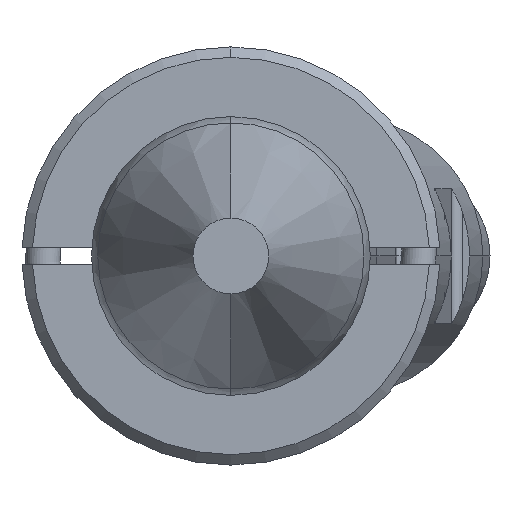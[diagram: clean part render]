
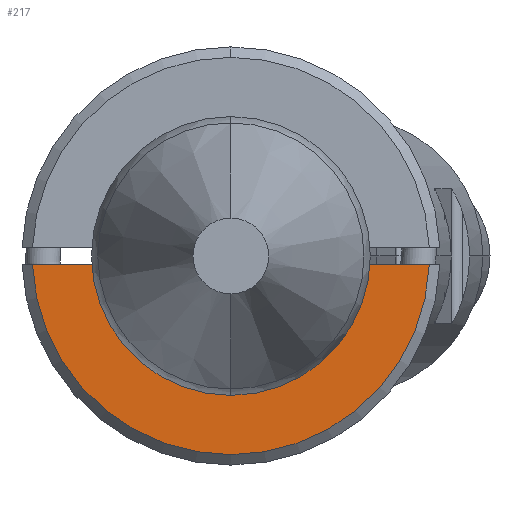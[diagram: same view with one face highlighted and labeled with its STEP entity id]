
A CAD part, front view. The second image highlights one B-rep face of the part: STEP entity #217.
In plain terms, the highlighted planar face has unit normal (0, -1, 0).
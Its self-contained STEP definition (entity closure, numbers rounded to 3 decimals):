
#7 = EDGE_CURVE ( 'NONE', #2664, #1240, #366, .T. ) ;
#134 = CARTESIAN_POINT ( 'NONE',  ( 0., -6., 0. ) ) ;
#217 = ADVANCED_FACE ( 'NONE', ( #2460 ), #591, .T. ) ;
#238 = CARTESIAN_POINT ( 'NONE',  ( 5.695, -6., -0.25 ) ) ;
#277 = CARTESIAN_POINT ( 'NONE',  ( 0., -6., -3.2 ) ) ;
#304 = AXIS2_PLACEMENT_3D ( 'NONE', #570, #2856, #1585 ) ;
#366 = CIRCLE ( 'NONE', #2802, 3.2 ) ;
#409 = CARTESIAN_POINT ( 'NONE',  ( -5.695, -6., -0.25 ) ) ;
#545 = DIRECTION ( 'NONE',  ( 1., 0., 0. ) ) ;
#570 = CARTESIAN_POINT ( 'NONE',  ( -6., -6., 0. ) ) ;
#591 = PLANE ( 'NONE',  #304 ) ;
#597 = AXIS2_PLACEMENT_3D ( 'NONE', #2712, #818, #3080 ) ;
#667 = VERTEX_POINT ( 'NONE', #2663 ) ;
#668 = DIRECTION ( 'NONE',  ( 1., 0., 0. ) ) ;
#678 = VECTOR ( 'NONE', #668, 1000. ) ;
#748 = CIRCLE ( 'NONE', #1338, 5.7 ) ;
#812 = EDGE_LOOP ( 'NONE', ( #3469, #2891, #1546, #981, #1248 ) ) ;
#818 = DIRECTION ( 'NONE',  ( 0., 1., 0. ) ) ;
#981 = ORIENTED_EDGE ( 'NONE', *, *, #2269, .T. ) ;
#1176 = CARTESIAN_POINT ( 'NONE',  ( -6., -6., -0.25 ) ) ;
#1240 = VERTEX_POINT ( 'NONE', #2181 ) ;
#1248 = ORIENTED_EDGE ( 'NONE', *, *, #7, .T. ) ;
#1338 = AXIS2_PLACEMENT_3D ( 'NONE', #2950, #2689, #3929 ) ;
#1546 = ORIENTED_EDGE ( 'NONE', *, *, #3227, .F. ) ;
#1585 = DIRECTION ( 'NONE',  ( 0., 0., -1. ) ) ;
#1715 = VERTEX_POINT ( 'NONE', #238 ) ;
#1770 = EDGE_CURVE ( 'NONE', #2132, #1240, #3700, .T. ) ;
#2117 = LINE ( 'NONE', #3405, #2675 ) ;
#2132 = VERTEX_POINT ( 'NONE', #409 ) ;
#2181 = CARTESIAN_POINT ( 'NONE',  ( -3.19, -6., -0.25 ) ) ;
#2269 = EDGE_CURVE ( 'NONE', #667, #2664, #3228, .T. ) ;
#2460 = FACE_OUTER_BOUND ( 'NONE', #812, .T. ) ;
#2663 = CARTESIAN_POINT ( 'NONE',  ( 3.19, -6., -0.25 ) ) ;
#2664 = VERTEX_POINT ( 'NONE', #277 ) ;
#2675 = VECTOR ( 'NONE', #545, 1000. ) ;
#2689 = DIRECTION ( 'NONE',  ( 0., -1., 0. ) ) ;
#2712 = CARTESIAN_POINT ( 'NONE',  ( 0., -6., 0. ) ) ;
#2802 = AXIS2_PLACEMENT_3D ( 'NONE', #134, #3839, #2900 ) ;
#2856 = DIRECTION ( 'NONE',  ( 0., -1., 0. ) ) ;
#2891 = ORIENTED_EDGE ( 'NONE', *, *, #3558, .T. ) ;
#2900 = DIRECTION ( 'NONE',  ( 0., 0., -1. ) ) ;
#2950 = CARTESIAN_POINT ( 'NONE',  ( 0., -6., 0. ) ) ;
#3080 = DIRECTION ( 'NONE',  ( 0., 0., -1. ) ) ;
#3227 = EDGE_CURVE ( 'NONE', #667, #1715, #2117, .T. ) ;
#3228 = CIRCLE ( 'NONE', #597, 3.2 ) ;
#3405 = CARTESIAN_POINT ( 'NONE',  ( -6., -6., -0.25 ) ) ;
#3469 = ORIENTED_EDGE ( 'NONE', *, *, #1770, .F. ) ;
#3558 = EDGE_CURVE ( 'NONE', #2132, #1715, #748, .T. ) ;
#3700 = LINE ( 'NONE', #1176, #678 ) ;
#3839 = DIRECTION ( 'NONE',  ( 0., 1., 0. ) ) ;
#3929 = DIRECTION ( 'NONE',  ( 0., 0., -1. ) ) ;
